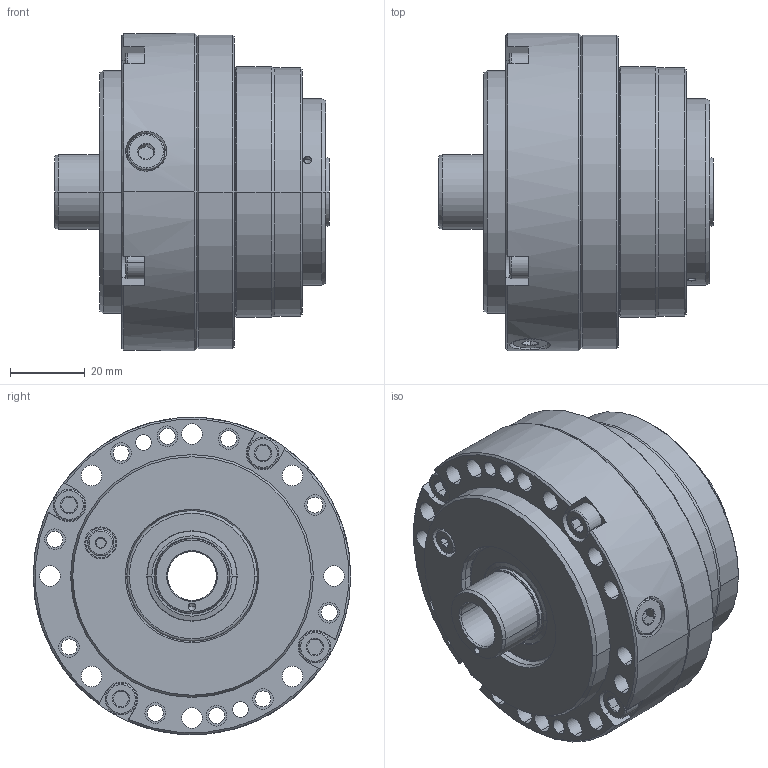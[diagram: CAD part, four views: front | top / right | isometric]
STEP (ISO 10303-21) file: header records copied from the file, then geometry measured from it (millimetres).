
FILE_DESCRIPTION((''),'2;1');
FILE_NAME('70-000H-0159_SW0002','2006-07-12T',('grich'),(''),'PRO/ENGINEER BY PARAMETRIC TECHNOLOGY CORPORATION, 2005110','PRO/ENGINEER BY PARAMETRIC TECHNOLOGY CORPORATION, 2005110','');
FILE_SCHEMA(('CONFIG_CONTROL_DESIGN'));
Length unit declared in the file: millimetre
Products named in the file (1): 70-000H-0159_SW0002
Bounding box: 73.5 x 85 x 85 mm (x, y, z)
Volume: 159373.7 mm3; surface area: 73927.7 mm2
Topology: 3 solids, 3 shells, 873 faces, 1920 edges, 1141 vertices
Faces by surface type: cone 306, cylinder 296, plane 206, torus 63, bspline 2
Entity records: 26256 total; most frequent: CARTESIAN_POINT 6403, DIRECTION 4585, ORIENTED_EDGE 3810, AXIS2_PLACEMENT_3D 1919, EDGE_CURVE 1905, VERTEX_POINT 1139, CIRCLE 1047, EDGE_LOOP 1020
